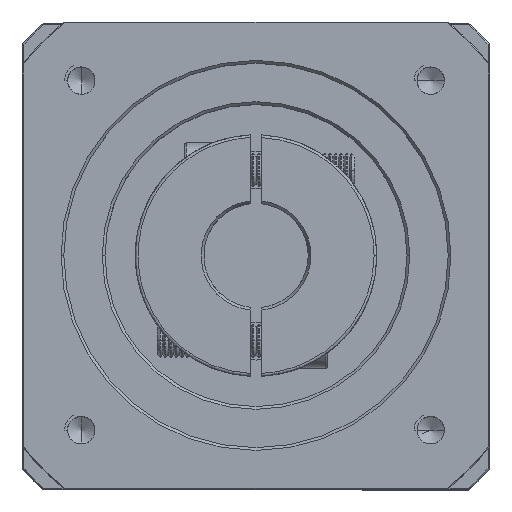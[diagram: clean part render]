
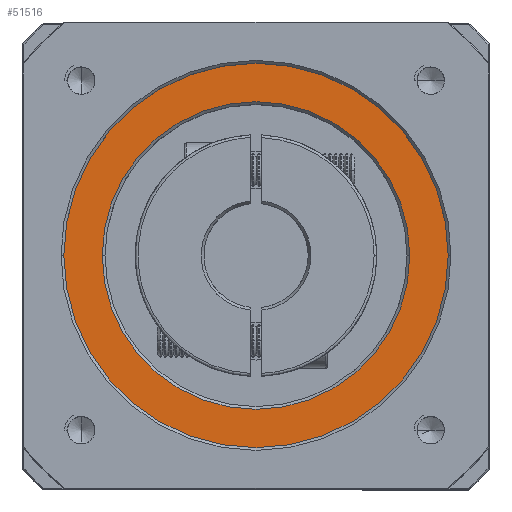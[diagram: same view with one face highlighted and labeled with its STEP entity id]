
A CAD part, top view. The second image highlights one B-rep face of the part: STEP entity #51516.
In plain terms, the highlighted planar face has unit normal (0, 0, 1).
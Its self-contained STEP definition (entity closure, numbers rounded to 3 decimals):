
#229 = CIRCLE ( 'NONE', #73638, 28. ) ;
#7992 = PLANE ( 'NONE',  #122814 ) ;
#9192 = VERTEX_POINT ( 'NONE', #90750 ) ;
#12534 = FACE_BOUND ( 'NONE', #59400, .T. ) ;
#15929 = DIRECTION ( 'NONE',  ( 1., 0., 0. ) ) ;
#17575 = DIRECTION ( 'NONE',  ( 0., 0., -1. ) ) ;
#17903 = CARTESIAN_POINT ( 'NONE',  ( -51.678, 33.802, 14.609 ) ) ;
#18697 = DIRECTION ( 'NONE',  ( 1., 0., 0. ) ) ;
#25890 = EDGE_CURVE ( 'NONE', #71837, #9192, #229, .T. ) ;
#27117 = DIRECTION ( 'NONE',  ( 0., 0., -1. ) ) ;
#33716 = CARTESIAN_POINT ( 'NONE',  ( -51.678, 33.802, 14.609 ) ) ;
#34022 = ORIENTED_EDGE ( 'NONE', *, *, #70140, .T. ) ;
#36529 = AXIS2_PLACEMENT_3D ( 'NONE', #37021, #17575, #83414 ) ;
#37021 = CARTESIAN_POINT ( 'NONE',  ( -51.678, 33.802, 14.609 ) ) ;
#40422 = CARTESIAN_POINT ( 'NONE',  ( -51.678, 33.802, 14.609 ) ) ;
#41144 = CIRCLE ( 'NONE', #110728, 35. ) ;
#44576 = ORIENTED_EDGE ( 'NONE', *, *, #62024, .T. ) ;
#46127 = DIRECTION ( 'NONE',  ( 1., 0., 0. ) ) ;
#47881 = DIRECTION ( 'NONE',  ( 1., 0., 0. ) ) ;
#49525 = DIRECTION ( 'NONE',  ( 0., 0., 1. ) ) ;
#50964 = FACE_OUTER_BOUND ( 'NONE', #105587, .T. ) ;
#51516 = ADVANCED_FACE ( 'NONE', ( #50964, #12534 ), #7992, .T. ) ;
#51524 = VERTEX_POINT ( 'NONE', #120938 ) ;
#58707 = CIRCLE ( 'NONE', #101176, 35. ) ;
#59400 = EDGE_LOOP ( 'NONE', ( #88908, #116843 ) ) ;
#62024 = EDGE_CURVE ( 'NONE', #51524, #104130, #41144, .T. ) ;
#64956 = CIRCLE ( 'NONE', #36529, 28. ) ;
#65179 = CARTESIAN_POINT ( 'NONE',  ( -51.678, 33.802, 14.609 ) ) ;
#70140 = EDGE_CURVE ( 'NONE', #104130, #51524, #58707, .T. ) ;
#71711 = CARTESIAN_POINT ( 'NONE',  ( -16.678, 33.802, 14.609 ) ) ;
#71837 = VERTEX_POINT ( 'NONE', #93592 ) ;
#72601 = DIRECTION ( 'NONE',  ( 0., 0., 1. ) ) ;
#73638 = AXIS2_PLACEMENT_3D ( 'NONE', #65179, #27117, #46127 ) ;
#79564 = EDGE_CURVE ( 'NONE', #9192, #71837, #64956, .T. ) ;
#83414 = DIRECTION ( 'NONE',  ( 1., 0., 0. ) ) ;
#88908 = ORIENTED_EDGE ( 'NONE', *, *, #79564, .T. ) ;
#90750 = CARTESIAN_POINT ( 'NONE',  ( -23.678, 33.802, 14.609 ) ) ;
#93592 = CARTESIAN_POINT ( 'NONE',  ( -79.678, 33.802, 14.609 ) ) ;
#101176 = AXIS2_PLACEMENT_3D ( 'NONE', #33716, #72601, #15929 ) ;
#104130 = VERTEX_POINT ( 'NONE', #71711 ) ;
#105587 = EDGE_LOOP ( 'NONE', ( #34022, #44576 ) ) ;
#110728 = AXIS2_PLACEMENT_3D ( 'NONE', #40422, #49525, #47881 ) ;
#113106 = DIRECTION ( 'NONE',  ( 0., 0., 1. ) ) ;
#116843 = ORIENTED_EDGE ( 'NONE', *, *, #25890, .T. ) ;
#120938 = CARTESIAN_POINT ( 'NONE',  ( -86.678, 33.802, 14.609 ) ) ;
#122814 = AXIS2_PLACEMENT_3D ( 'NONE', #17903, #113106, #18697 ) ;
